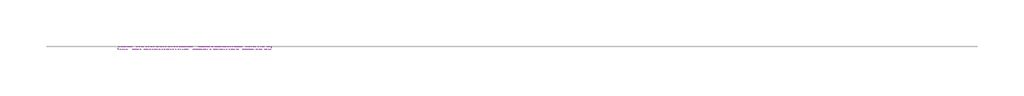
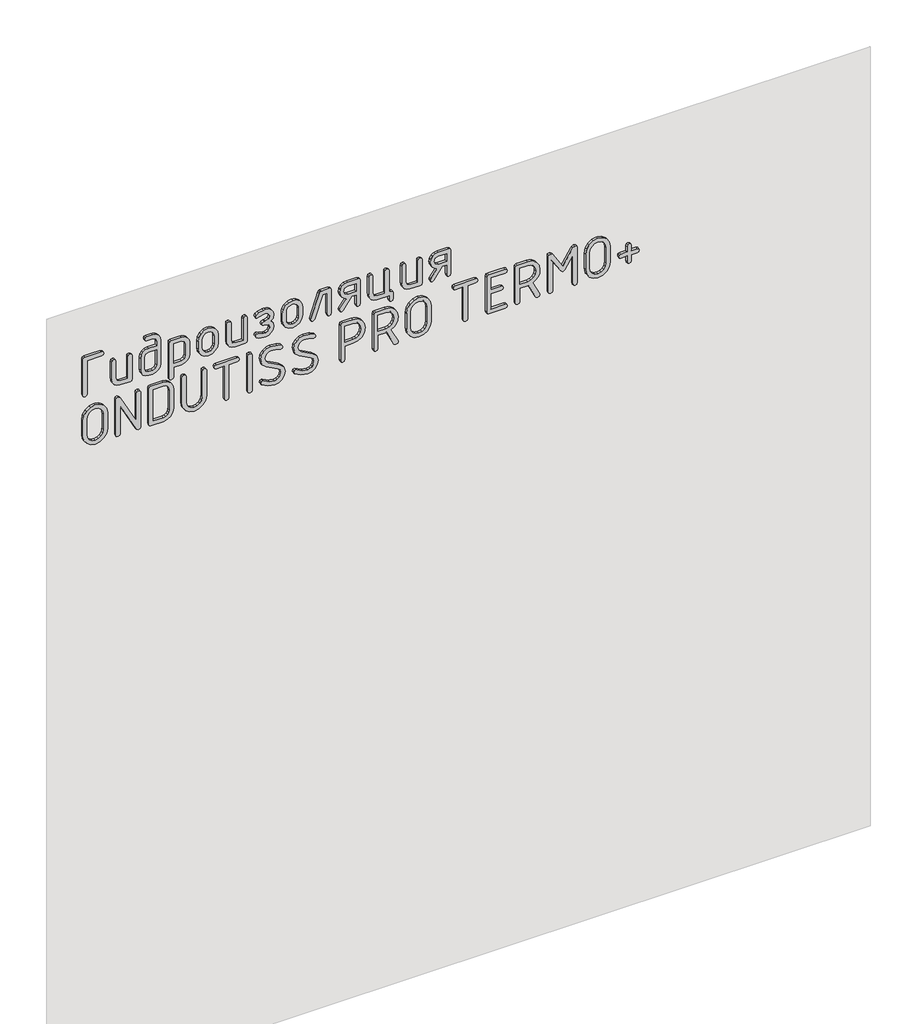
# One storey, part 32 of 42: 1 proxy.
"""IFC4 building model written with IfcOpenShell, lengths in millimetres."""

from ifc_helpers import new_model, si_unit, frame, origin, place, context, project, spatial, polyline, outline, extrude, element, save

model = new_model("IFC4")

# Units and contexts
model_context = context("Model", 3, world=origin())
ifc_project = project(units=[si_unit("LENGTHUNIT", "METRE", prefix="MILLI")], contexts=[model_context])

# Site, building, storey
site = spatial("IfcSite", under=ifc_project)
building = spatial("IfcBuilding", under=site)
storey = spatial("IfcBuildingStorey", under=building, Name="Этаж 01", Elevation=0.0)

# Proxy
placement = place(None, origin())
element("IfcBuildingElementProxy", 1, Name="150 мм GOST Common", ObjectType="150 мм GOST Common", at=placement, inside=storey, context=model_context, shape_type="SweptSolid", body=[
    extrude(outline(polyline([(2798.1927108, -4395.2767702), (2798.1927108, -4342.7803651), (2800.1103877, -4337.1471892), (2805.8634184, -4335.2694639), (2811.6164491, -4337.1471892), (2813.534126, -4342.7803651), (2813.534126, -4402.9474778), (2811.6464128, -4408.7005085), (2805.9832732, -4410.6181854), (2670.2277293, -4410.6181854), (2664.5645897, -4408.7005085), (2662.6768765, -4402.9474778), (2664.5546018, -4397.1944471), (2670.1877777, -4395.2767702), (2798.1927108, -4395.2767702)])), frame((0.0, -27839.3929597, 0.0), z_axis=(0.0, 1.0, 0.0), x_axis=(0.0, 0.0, 1.0)), (0.0, 0.0, 1.0), 10.0),
    extrude(outline(polyline([(2760.0389308, -4231.6350081), (2765.642143, -4233.552685), (2767.5098804, -4239.3057157), (2765.642143, -4245.0587464), (2760.0389308, -4246.9764233), (2678.0182917, -4246.9764233), (2678.0182917, -4275.9413348), (2682.4329437, -4286.168945), (2692.9202393, -4290.4437664), (2760.0389308, -4290.4437664), (2765.642143, -4292.3614433), (2767.5098804, -4298.114474), (2765.642143, -4303.8675047), (2760.0389308, -4305.7851816), (2692.6405781, -4305.7851816), (2681.004674, -4303.637783), (2671.3463742, -4297.1955871), (2664.8442509, -4287.6371663), (2662.6768765, -4276.1410928), (2662.6768765, -4239.0660061), (2664.5446139, -4233.4927576), (2670.1478261, -4231.6350081), (2760.0389308, -4231.6350081)])), frame((0.0, -27839.3929597, 0.0), z_axis=(0.0, 1.0, 0.0), x_axis=(0.0, 0.0, 1.0)), (0.0, 0.0, 1.0), 10.0),
    extrude(outline(polyline([(2783.3706664, -4126.8020043), (2794.9816007, -4128.934421), (2804.7247977, -4135.3316713), (2811.3317939, -4144.8151829), (2813.534126, -4156.2063834), (2813.534126, -4178.2596678), (2811.6164491, -4183.7729888), (2805.8634184, -4185.6107625), (2800.1103877, -4183.8029525), (2798.1927108, -4178.3795226), (2798.1927108, -4156.645851), (2793.7780587, -4146.3183619), (2782.8512956, -4142.1434195), (2767.5098804, -4142.1434195), (2767.5098804, -4171.5477986), (2765.342506, -4182.8890596), (2758.8403827, -4192.3825591), (2749.1820829, -4198.8097731), (2737.5461788, -4200.9521777), (2692.6405781, -4200.9521777), (2681.0795832, -4198.8047791), (2671.4063016, -4192.3625833), (2664.8592328, -4182.8041625), (2662.6768765, -4171.308089), (2662.6768765, -4156.446093), (2664.8642267, -4145.0249288), (2671.4262774, -4135.4515261), (2681.1544925, -4128.9643847), (2692.8403361, -4126.8020043), (2783.3706664, -4126.8020043)]), holes=[polyline([(2692.8403361, -4142.1434195), (2682.3530405, -4146.3782893), (2678.0182917, -4156.645851), (2678.0182917, -4171.108331), (2682.3929921, -4181.3359411), (2692.8403361, -4185.6107625), (2737.3464208, -4185.6107625), (2747.8337163, -4181.3758927), (2752.1684652, -4171.108331), (2752.1684652, -4142.1434195), (2692.8403361, -4142.1434195)])]), frame((0.0, -27839.3929597, 0.0), z_axis=(0.0, 1.0, 0.0), x_axis=(0.0, 0.0, 1.0)), (0.0, 0.0, 1.0), 10.0),
    extrude(outline(polyline([(2759.9590276, -4096.1191739), (2624.2034837, -4096.1191739), (2618.5403441, -4094.201497), (2616.6526309, -4088.4484663), (2618.5703078, -4082.6954356), (2624.3233385, -4080.7777587), (2662.6768765, -4080.7777587), (2662.6768765, -4051.3733796), (2664.8592328, -4039.982179), (2671.4063016, -4030.4986675), (2681.0795832, -4024.1014172), (2692.6405781, -4021.9690004), (2737.5461788, -4021.9690004), (2749.1820829, -4024.116399), (2758.8403827, -4030.5585949), (2765.342506, -4040.1170157), (2767.5098804, -4051.6130892), (2767.5098804, -4088.6881759), (2765.6221672, -4094.2614244), (2759.9590276, -4096.1191739)]), holes=[polyline([(2752.1684652, -4080.7777587), (2752.1684652, -4051.8128472), (2747.8936437, -4041.485358), (2737.3464208, -4037.3104156), (2692.8403361, -4037.3104156), (2682.3530405, -4041.5452854), (2678.0182917, -4051.8128472), (2678.0182917, -4080.7777587), (2752.1684652, -4080.7777587)])]), frame((0.0, -27839.3929597, 0.0), z_axis=(0.0, 1.0, 0.0), x_axis=(0.0, 0.0, 1.0)), (0.0, 0.0, 1.0), 10.0),
    extrude(outline(polyline([(2700.1115277, -3991.28617), (2685.718963, -3988.574455), (2673.6236155, -3980.4393101), (2665.4135613, -3968.4588234), (2662.6768765, -3954.2110833), (2665.4135613, -3939.9633432), (2673.6236155, -3927.9828565), (2685.718963, -3919.8477116), (2700.1115277, -3917.1359966), (2730.0752292, -3917.1359966), (2744.6176124, -3919.8177479), (2756.6829962, -3927.8630017), (2764.8031593, -3939.8135247), (2767.5098804, -3954.2110833), (2764.7731956, -3968.4588234), (2756.5631414, -3980.4393101), (2744.4677939, -3988.574455), (2730.0752292, -3991.28617), (2700.1115277, -3991.28617)]), holes=[polyline([(2700.5509953, -3932.4774118), (2691.8914855, -3934.0704819), (2684.6103061, -3938.8496923), (2679.6662953, -3945.8761803), (2678.0182917, -3954.2110833), (2679.6563074, -3962.6208955), (2684.5703545, -3969.6324017), (2691.841546, -3974.3666666), (2700.5509953, -3975.9447548), (2730.5546484, -3975.9447548), (2739.1841945, -3974.3516847), (2746.4553861, -3969.5724743), (2751.3993968, -3962.5459863), (2753.0474004, -3954.2110833), (2751.3993968, -3945.8761803), (2746.4553861, -3938.8496923), (2739.1841945, -3934.0704819), (2730.5546484, -3932.4774118), (2700.5509953, -3932.4774118)])]), frame((0.0, -27839.3929597, 0.0), z_axis=(0.0, 1.0, 0.0), x_axis=(0.0, 0.0, 1.0)), (0.0, 0.0, 1.0), 10.0),
    extrude(outline(polyline([(2760.0389308, -3812.3029927), (2765.642143, -3814.2206696), (2767.5098804, -3819.9737003), (2765.642143, -3825.726731), (2760.0389308, -3827.6444079), (2678.0182917, -3827.6444079), (2678.0182917, -3856.6093194), (2682.4329437, -3866.8369296), (2692.9202393, -3871.111751), (2760.0389308, -3871.111751), (2765.642143, -3873.0294279), (2767.5098804, -3878.7824586), (2765.642143, -3884.5354893), (2760.0389308, -3886.4531662), (2692.6405781, -3886.4531662), (2681.004674, -3884.3057676), (2671.3463742, -3877.8635717), (2664.8442509, -3868.3051509), (2662.6768765, -3856.8090774), (2662.6768765, -3819.7339907), (2664.5446139, -3814.1607422), (2670.1478261, -3812.3029927), (2760.0389308, -3812.3029927)])), frame((0.0, -27839.3929597, 0.0), z_axis=(0.0, 1.0, 0.0), x_axis=(0.0, 0.0, 1.0)), (0.0, 0.0, 1.0), 10.0),
    extrude(outline(polyline([(2693.3996585, -3730.4821117), (2682.5128469, -3734.8568121), (2678.0182917, -3745.5039141), (2678.0182917, -3753.0148152), (2681.8336697, -3768.0565934), (2685.6490477, -3777.1855345), (2682.9323388, -3781.3005495), (2677.6587273, -3783.0184684), (2671.7059386, -3779.9721587), (2666.6320851, -3770.8332298), (2662.6768765, -3753.0148152), (2662.6768765, -3745.5039141), (2664.8991844, -3733.8180704), (2671.566108, -3724.0099521), (2681.4591234, -3717.3580104), (2693.3597069, -3715.1406965), (2707.1829612, -3717.7874901), (2716.3718297, -3725.727871), (2725.0113637, -3717.7874901), (2738.3052592, -3715.1406965), (2749.6215505, -3717.3580104), (2759.0401407, -3724.0099521), (2765.3924455, -3733.8180704), (2767.5098804, -3745.5039141), (2767.5098804, -3753.0148152), (2763.434817, -3770.713375), (2758.2710724, -3779.942195), (2752.5280296, -3783.0184684), (2747.2743939, -3781.3005495), (2744.5377092, -3777.3053893), (2748.3530872, -3768.396182), (2752.1684652, -3753.0148152), (2752.1684652, -3745.5039141), (2748.1133776, -3734.8168605), (2738.1055012, -3730.4821117), (2728.0976249, -3734.5172235), (2724.0425373, -3746.1830913), (2724.0425373, -3748.5801874), (2724.0425373, -3750.8574287), (2721.7852718, -3758.2684509), (2716.3318781, -3760.4857648), (2710.8984602, -3758.3283783), (2708.7011221, -3753.0148152), (2708.7011221, -3743.3465275), (2704.7459135, -3734.4772719), (2693.3996585, -3730.4821117)])), frame((0.0, -27839.3929597, 0.0), z_axis=(0.0, 1.0, 0.0), x_axis=(0.0, 0.0, 1.0)), (0.0, 0.0, 1.0), 10.0),
    extrude(outline(polyline([(2700.1115277, -3684.4578661), (2685.718963, -3681.7461511), (2673.6236155, -3673.6110061), (2665.4135613, -3661.6305194), (2662.6768765, -3647.3827794), (2665.4135613, -3633.1350393), (2673.6236155, -3621.1545526), (2685.718963, -3613.0194076), (2700.1115277, -3610.3076926), (2730.0752292, -3610.3076926), (2744.6176124, -3612.9894439), (2756.6829962, -3621.0346978), (2764.8031593, -3632.9852208), (2767.5098804, -3647.3827794), (2764.7731956, -3661.6305194), (2756.5631414, -3673.6110061), (2744.4677939, -3681.7461511), (2730.0752292, -3684.4578661), (2700.1115277, -3684.4578661)]), holes=[polyline([(2700.5509953, -3625.6491078), (2691.8914855, -3627.242178), (2684.6103061, -3632.0213884), (2679.6662953, -3639.0478764), (2678.0182917, -3647.3827794), (2679.6563074, -3655.7925916), (2684.5703545, -3662.8040978), (2691.841546, -3667.5383626), (2700.5509953, -3669.1164509), (2730.5546484, -3669.1164509), (2739.1841945, -3667.5233807), (2746.4553861, -3662.7441704), (2751.3993968, -3655.7176823), (2753.0474004, -3647.3827794), (2751.3993968, -3639.0478764), (2746.4553861, -3632.0213884), (2739.1841945, -3627.242178), (2730.5546484, -3625.6491078), (2700.5509953, -3625.6491078)])]), frame((0.0, -27839.3929597, 0.0), z_axis=(0.0, 1.0, 0.0), x_axis=(0.0, 0.0, 1.0)), (0.0, 0.0, 1.0), 10.0),
    extrude(outline(polyline([(2767.5098804, -3543.3088559), (2765.9817316, -3547.9032902), (2761.3972852, -3550.8197571), (2672.5449222, -3580.4638459), (2670.2676809, -3580.8234103), (2664.5745776, -3578.945685), (2662.6768765, -3573.3125091), (2667.75073, -3566.2410755), (2752.1684652, -3537.9553413), (2752.1684652, -3520.816104), (2670.1478261, -3520.816104), (2664.5446139, -3518.8984271), (2662.6768765, -3513.1453964), (2664.5446139, -3507.3923657), (2670.1478261, -3505.4746888), (2760.0389308, -3505.4746888), (2765.642143, -3507.3923657), (2767.5098804, -3513.1453964), (2767.5098804, -3543.3088559)])), frame((0.0, -27839.3929597, 0.0), z_axis=(0.0, 1.0, 0.0), x_axis=(0.0, 0.0, 1.0)), (0.0, 0.0, 1.0), 10.0),
    extrude(outline(polyline([(2707.8221869, -3449.2627847), (2674.7023087, -3474.5121972), (2670.1478261, -3475.9904064), (2664.5446139, -3474.1126811), (2662.6768765, -3468.4795053), (2665.7531499, -3462.4468133), (2707.6623805, -3431.2046605), (2707.6623805, -3415.9831001), (2670.1877777, -3415.9831001), (2664.5546018, -3414.0654232), (2662.6768765, -3408.3123925), (2664.5446139, -3402.5593618), (2670.1478261, -3400.6416849), (2760.0389308, -3400.6416849), (2765.642143, -3402.5593618), (2767.5098804, -3408.3123925), (2767.5098804, -3445.9867533), (2765.342506, -3457.6026816), (2758.8403827, -3467.2809572), (2749.1820829, -3473.8130441), (2737.5461788, -3475.9904064), (2726.784216, -3474.0976993), (2717.5903536, -3468.4195778), (2710.9434058, -3459.8449653), (2707.8221869, -3449.2627847)]), holes=[polyline([(2737.1466628, -3460.9686041), (2747.7937647, -3456.5939036), (2752.1684652, -3445.9867533), (2752.1684652, -3415.9831001), (2722.164812, -3415.9831001), (2722.164812, -3445.9867533), (2726.5994398, -3456.5339762), (2737.1466628, -3460.9686041)])]), frame((0.0, -27839.3929597, 0.0), z_axis=(0.0, 1.0, 0.0), x_axis=(0.0, 0.0, 1.0)), (0.0, 0.0, 1.0), 10.0),
    extrude(outline(polyline([(2678.0182917, -3288.1379735), (2678.0182917, -3295.8086811), (2760.0389308, -3295.8086811), (2765.642143, -3297.726358), (2767.5098804, -3303.4793887), (2765.642143, -3309.2324194), (2760.0389308, -3311.1500963), (2678.0182917, -3311.1500963), (2678.0182917, -3340.1150078), (2682.4329437, -3350.3426179), (2692.9202393, -3354.6174393), (2760.0389308, -3354.6174393), (2765.642143, -3356.5351162), (2767.5098804, -3362.2881469), (2765.642143, -3368.0411776), (2760.0389308, -3369.9588545), (2692.6405781, -3369.9588545), (2681.0795832, -3367.8114559), (2671.4063016, -3361.3692601), (2664.8592328, -3351.8108393), (2662.6768765, -3340.3147658), (2662.6768765, -3295.8086811), (2647.3354613, -3295.8086811), (2641.5824306, -3293.8910042), (2639.6647537, -3288.1379735), (2641.5824306, -3282.3849428), (2647.3354613, -3280.4672659), (2670.3475841, -3280.4672659), (2676.1006148, -3282.3849428), (2678.0182917, -3288.1379735)])), frame((0.0, -27839.3929597, 0.0), z_axis=(0.0, 1.0, 0.0), x_axis=(0.0, 0.0, 1.0)), (0.0, 0.0, 1.0), 10.0),
    extrude(outline(polyline([(2760.0389308, -3175.634262), (2765.642143, -3177.5519389), (2767.5098804, -3183.3049696), (2765.642143, -3189.0580003), (2760.0389308, -3190.9756772), (2678.0182917, -3190.9756772), (2678.0182917, -3219.9405887), (2682.4329437, -3230.1681989), (2692.9202393, -3234.4430203), (2760.0389308, -3234.4430203), (2765.642143, -3236.3606972), (2767.5098804, -3242.1137279), (2765.642143, -3247.8667586), (2760.0389308, -3249.7844355), (2692.6405781, -3249.7844355), (2681.004674, -3247.6370369), (2671.3463742, -3241.194841), (2664.8442509, -3231.6364202), (2662.6768765, -3220.1403467), (2662.6768765, -3183.06526), (2664.5446139, -3177.4920115), (2670.1478261, -3175.634262), (2760.0389308, -3175.634262)])), frame((0.0, -27839.3929597, 0.0), z_axis=(0.0, 1.0, 0.0), x_axis=(0.0, 0.0, 1.0)), (0.0, 0.0, 1.0), 10.0),
    extrude(outline(polyline([(2707.8221869, -3119.4223579), (2674.7023087, -3144.6717704), (2670.1478261, -3146.1499797), (2664.5446139, -3144.2722544), (2662.6768765, -3138.6390785), (2665.7531499, -3132.6063866), (2707.6623805, -3101.3642338), (2707.6623805, -3086.1426734), (2670.1877777, -3086.1426734), (2664.5546018, -3084.2249965), (2662.6768765, -3078.4719658), (2664.5446139, -3072.7189351), (2670.1478261, -3070.8012582), (2760.0389308, -3070.8012582), (2765.642143, -3072.7189351), (2767.5098804, -3078.4719658), (2767.5098804, -3116.1463265), (2765.342506, -3127.7622548), (2758.8403827, -3137.4405304), (2749.1820829, -3143.9726174), (2737.5461788, -3146.1499797), (2726.784216, -3144.2572725), (2717.5903536, -3138.5791511), (2710.9434058, -3130.0045385), (2707.8221869, -3119.4223579)]), holes=[polyline([(2737.1466628, -3131.1281773), (2747.7937647, -3126.7534769), (2752.1684652, -3116.1463265), (2752.1684652, -3086.1426734), (2722.164812, -3086.1426734), (2722.164812, -3116.1463265), (2726.5994398, -3126.6935495), (2737.1466628, -3131.1281773)])]), frame((0.0, -27839.3929597, 0.0), z_axis=(0.0, 1.0, 0.0), x_axis=(0.0, 0.0, 1.0)), (0.0, 0.0, 1.0), 10.0),
    extrude(outline(polyline([(2511.9177961, -4321.1265968), (2572.2447152, -4321.1265968), (2589.6885835, -4324.3876463), (2604.3058759, -4334.1707949), (2614.2088792, -4348.618293), (2617.5098804, -4365.8723911), (2614.1938974, -4383.05158), (2604.2459485, -4397.5140599), (2589.6136742, -4407.3421541), (2572.2447152, -4410.6181854), (2511.9177961, -4410.6181854), (2494.5488371, -4407.3421541), (2479.9165628, -4397.5140599), (2469.9686139, -4383.05158), (2466.6526309, -4365.8723911), (2469.9686139, -4348.6932022), (2479.9165628, -4334.2307223), (2494.5488371, -4324.4026281), (2511.9177961, -4321.1265968)]), holes=[polyline([(2512.0376509, -4336.468012), (2500.3917589, -4338.6004287), (2490.7034954, -4344.997679), (2484.1714084, -4354.4811906), (2481.9940461, -4365.8723911), (2484.1714084, -4377.2635916), (2490.7034954, -4386.7471032), (2500.3917589, -4393.1443535), (2512.0376509, -4395.2767702), (2572.1248604, -4395.2767702), (2583.7707524, -4393.1443535), (2593.4590159, -4386.7471032), (2599.9911029, -4377.2635916), (2602.1684652, -4365.8723911), (2599.9911029, -4354.4811906), (2593.4590159, -4344.997679), (2583.7707524, -4338.6004287), (2572.1248604, -4336.468012), (2512.0376509, -4336.468012)])]), frame((0.0, -27839.3929597, 0.0), z_axis=(0.0, 1.0, 0.0), x_axis=(0.0, 0.0, 1.0)), (0.0, 0.0, 1.0), 10.0),
    extrude(outline(polyline([(2503.3282016, -4216.2935929), (2613.0353009, -4275.1023512), (2617.5098804, -4282.453446), (2615.6221672, -4288.4461863), (2609.9590276, -4290.4437664), (2474.2034837, -4290.4437664), (2468.5403441, -4288.5260895), (2466.6526309, -4282.7730588), (2468.5403441, -4277.0200281), (2474.2034837, -4275.1023512), (2580.9541645, -4275.1023512), (2470.4080815, -4216.2935929), (2466.6526309, -4209.1023046), (2468.5403441, -4202.9897094), (2474.2034837, -4200.9521777), (2609.9590276, -4200.9521777), (2615.6221672, -4202.8698546), (2617.5098804, -4208.6228853), (2615.6221672, -4214.375916), (2609.9590276, -4216.2935929), (2503.3282016, -4216.2935929)])), frame((0.0, -27839.3929597, 0.0), z_axis=(0.0, 1.0, 0.0), x_axis=(0.0, 0.0, 1.0)), (0.0, 0.0, 1.0), 10.0),
    extrude(outline(polyline([(2609.9590276, -4170.2693473), (2474.2034837, -4170.2693473), (2468.5403441, -4168.4016099), (2466.6526309, -4162.7983977), (2466.6526309, -4118.0526034), (2469.4092915, -4103.7299541), (2477.6792731, -4091.684546), (2489.8645117, -4083.5044555), (2504.3669433, -4080.7777587), (2579.795568, -4080.7777587), (2594.4478181, -4083.4744918), (2606.603093, -4091.5646912), (2614.7831835, -4103.5801356), (2617.5098804, -4118.0526034), (2617.5098804, -4162.7983977), (2615.6221672, -4168.4016099), (2609.9590276, -4170.2693473)]), holes=[polyline([(2602.1684652, -4154.9279321), (2602.1684652, -4118.1724582), (2600.5204616, -4109.6977246), (2595.5764508, -4102.5713576), (2588.2952713, -4097.7322198), (2579.6357616, -4096.1191739), (2504.5267497, -4096.1191739), (2495.8672399, -4097.7322198), (2488.5860605, -4102.5713576), (2483.6420497, -4109.6977246), (2481.9940461, -4118.1724582), (2481.9940461, -4154.9279321), (2602.1684652, -4154.9279321)])]), frame((0.0, -27839.3929597, 0.0), z_axis=(0.0, 1.0, 0.0), x_axis=(0.0, 0.0, 1.0)), (0.0, 0.0, 1.0), 10.0),
    extrude(outline(polyline([(2609.9590276, -3960.6033396), (2615.6221672, -3962.5210165), (2617.5098804, -3968.2740472), (2615.6321551, -3974.0270779), (2609.9989792, -3975.9447548), (2512.1175541, -3975.9447548), (2500.4367044, -3978.0771716), (2490.7234712, -3984.4744219), (2484.1764024, -3993.9579334), (2481.9940461, -4005.349134), (2484.1764024, -4016.7403345), (2490.7234712, -4026.223846), (2500.4367044, -4032.6210963), (2512.1175541, -4034.7535131), (2609.9989792, -4034.7535131), (2615.6321551, -4036.67119), (2617.5098804, -4042.4242207), (2615.6221672, -4048.1772514), (2609.9590276, -4050.0949283), (2511.9177961, -4050.0949283), (2494.5488371, -4046.8188969), (2479.9165628, -4036.9908028), (2469.9686139, -4022.5283229), (2466.6526309, -4005.349134), (2469.9686139, -3988.1699451), (2479.9165628, -3973.7074651), (2494.5488371, -3963.879371), (2511.9177961, -3960.6033396), (2609.9590276, -3960.6033396)])), frame((0.0, -27839.3929597, 0.0), z_axis=(0.0, 1.0, 0.0), x_axis=(0.0, 0.0, 1.0)), (0.0, 0.0, 1.0), 10.0),
    extrude(outline(polyline([(2609.8391728, -3931.6384281), (2604.0861421, -3929.7607028), (2602.1684652, -3924.1275269), (2602.1684652, -3894.1238738), (2474.1635321, -3894.1238738), (2468.5303562, -3892.2061969), (2466.6526309, -3886.4531662), (2468.5303562, -3880.7001355), (2474.1635321, -3878.7824586), (2602.1684652, -3878.7824586), (2602.1684652, -3848.7788054), (2604.0861421, -3843.1755932), (2609.8391728, -3841.3078558), (2615.5922035, -3843.1755932), (2617.5098804, -3848.7788054), (2617.5098804, -3924.1275269), (2615.5922035, -3929.7607028), (2609.8391728, -3931.6384281)])), frame((0.0, -27839.3929597, 0.0), z_axis=(0.0, 1.0, 0.0), x_axis=(0.0, 0.0, 1.0)), (0.0, 0.0, 1.0), 10.0),
    extrude(outline(polyline([(2466.6526309, -3802.0753826), (2468.5403441, -3796.3223519), (2474.2034837, -3794.404675), (2609.9590276, -3794.404675), (2615.6221672, -3796.3223519), (2617.5098804, -3802.0753826), (2615.6221672, -3807.8284133), (2609.9590276, -3809.7460902), (2474.2034837, -3809.7460902), (2468.5403441, -3807.8284133), (2466.6526309, -3802.0753826)])), frame((0.0, -27839.3929597, 0.0), z_axis=(0.0, 1.0, 0.0), x_axis=(0.0, 0.0, 1.0)), (0.0, 0.0, 1.0), 10.0),
    extrude(outline(polyline([(2504.2870401, -3674.2302559), (2524.1429863, -3679.3140973), (2537.8463858, -3694.5656214), (2559.5001542, -3736.2351424), (2567.6602689, -3745.3441076), (2579.59581, -3748.3804294), (2588.2603137, -3746.7673835), (2595.556475, -3741.9282457), (2600.5154676, -3734.8018786), (2602.1684652, -3726.3271451), (2600.4904979, -3709.567448), (2595.456596, -3692.6878961), (2594.657564, -3689.5716711), (2596.8748779, -3684.2780839), (2602.1684652, -3682.06077), (2609.1599955, -3686.4953978), (2615.4224092, -3703.4648408), (2617.5098804, -3726.6467579), (2614.7432319, -3740.8195887), (2606.4432866, -3752.8150572), (2594.2680359, -3760.9951478), (2579.8754712, -3763.7218446), (2560.0494887, -3758.6979306), (2546.4359803, -3743.6261888), (2524.7822119, -3701.9167162), (2516.5322061, -3692.6579324), (2504.5667013, -3689.5716711), (2495.9021976, -3691.1996989), (2488.6060363, -3696.0837823), (2483.6470437, -3703.2750707), (2481.9940461, -3711.8247135), (2485.1901743, -3731.6007565), (2495.657494, -3752.0559768), (2497.0158485, -3756.2908466), (2494.7985346, -3761.5245065), (2489.5049473, -3763.7218446), (2483.3923522, -3760.4458132), (2470.8375612, -3737.5235815), (2466.6526309, -3711.5051007), (2469.4192794, -3697.2573606), (2477.7192247, -3685.1969707), (2489.8944754, -3676.9719346), (2504.2870401, -3674.2302559)])), frame((0.0, -27839.3929597, 0.0), z_axis=(0.0, 1.0, 0.0), x_axis=(0.0, 0.0, 1.0)), (0.0, 0.0, 1.0), 10.0),
    extrude(outline(polyline([(2504.2870401, -3554.0558369), (2524.1429863, -3559.1396783), (2537.8463858, -3574.3912024), (2559.5001542, -3616.0607233), (2567.6602689, -3625.1696886), (2579.59581, -3628.2060104), (2588.2603137, -3626.5929644), (2595.556475, -3621.7538266), (2600.5154676, -3614.6274596), (2602.1684652, -3606.152726), (2600.4904979, -3589.3930289), (2595.456596, -3572.5134771), (2594.657564, -3569.3972521), (2596.8748779, -3564.1036648), (2602.1684652, -3561.8863509), (2609.1599955, -3566.3209787), (2615.4224092, -3583.2904217), (2617.5098804, -3606.4723388), (2614.7432319, -3620.6451697), (2606.4432866, -3632.6406382), (2594.2680359, -3640.8207287), (2579.8754712, -3643.5474256), (2560.0494887, -3638.5235116), (2546.4359803, -3623.4517697), (2524.7822119, -3581.7422971), (2516.5322061, -3572.4835134), (2504.5667013, -3569.3972521), (2495.9021976, -3571.0252799), (2488.6060363, -3575.9093632), (2483.6470437, -3583.1006516), (2481.9940461, -3591.6502945), (2485.1901743, -3611.4263375), (2495.657494, -3631.8815577), (2497.0158485, -3636.1164276), (2494.7985346, -3641.3500874), (2489.5049473, -3643.5474256), (2483.3923522, -3640.2713942), (2470.8375612, -3617.3491625), (2466.6526309, -3591.3306816), (2469.4192794, -3577.0829415), (2477.7192247, -3565.0225517), (2489.8944754, -3556.7975156), (2504.2870401, -3554.0558369)])), frame((0.0, -27839.3929597, 0.0), z_axis=(0.0, 1.0, 0.0), x_axis=(0.0, 0.0, 1.0)), (0.0, 0.0, 1.0), 10.0),
    extrude(outline(polyline([(2617.5098804, -3464.7640063), (2615.6221672, -3470.3672185), (2609.9590276, -3472.2349558), (2474.2034837, -3472.2349558), (2468.5403441, -3470.3172789), (2466.6526309, -3464.5642482), (2468.4904046, -3458.8112175), (2474.0037257, -3456.8935407), (2525.4613892, -3456.8935407), (2525.4613892, -3427.2494519), (2528.6575173, -3409.3261644), (2538.2459018, -3395.108388), (2552.9480914, -3385.8346224), (2571.4856348, -3382.7433672), (2589.2241461, -3386.0044167), (2604.0861421, -3395.7875653), (2614.1539458, -3410.2350634), (2617.5098804, -3427.4891615), (2617.5098804, -3464.7640063)]), holes=[polyline([(2602.1684652, -3456.8935407), (2602.1684652, -3427.4891615), (2599.9461573, -3416.097961), (2593.2792337, -3406.6144494), (2583.3862182, -3400.2171992), (2571.4856348, -3398.0847824), (2559.5850513, -3400.2171992), (2549.6920358, -3406.6144494), (2543.0251122, -3416.097961), (2540.8028044, -3427.4891615), (2540.8028044, -3456.8935407), (2602.1684652, -3456.8935407)])]), frame((0.0, -27839.3929597, 0.0), z_axis=(0.0, 1.0, 0.0), x_axis=(0.0, 0.0, 1.0)), (0.0, 0.0, 1.0), 10.0),
    extrude(outline(polyline([(2530.1756782, -3288.7372475), (2536.8800565, -3277.2886165), (2546.1263554, -3269.111023), (2557.9145749, -3264.2044669), (2572.2447152, -3262.5689481), (2589.6885835, -3265.8299977), (2604.3058759, -3275.6131462), (2614.2088792, -3290.0606443), (2617.5098804, -3307.3147425), (2617.5098804, -3344.5895872), (2615.6221672, -3350.1927994), (2609.9590276, -3352.0605368), (2474.2034837, -3352.0605368), (2468.5403441, -3350.1428599), (2466.6526309, -3344.3898292), (2468.4904046, -3338.6367985), (2474.0037257, -3336.7191216), (2525.4613892, -3336.7191216), (2525.4613892, -3307.6343553), (2525.581244, -3304.9975496), (2470.7676459, -3277.9103633), (2466.6526309, -3270.5992202), (2468.9298722, -3265.0059959), (2474.2034837, -3262.5689481), (2477.6393215, -3262.5689481), (2530.1756782, -3288.7372475)]), holes=[polyline([(2602.1684652, -3336.7191216), (2602.1684652, -3307.3147425), (2599.9461573, -3295.9235419), (2593.2792337, -3286.4400304), (2583.3862182, -3280.0427801), (2571.4856348, -3277.9103633), (2559.5850513, -3280.0427801), (2549.6920358, -3286.4400304), (2543.0251122, -3295.9235419), (2540.8028044, -3307.3147425), (2540.8028044, -3336.7191216), (2602.1684652, -3336.7191216)])]), frame((0.0, -27839.3929597, 0.0), z_axis=(0.0, 1.0, 0.0), x_axis=(0.0, 0.0, 1.0)), (0.0, 0.0, 1.0), 10.0),
    extrude(outline(polyline([(2511.9177961, -3142.3945291), (2572.2447152, -3142.3945291), (2589.6885835, -3145.6555786), (2604.3058759, -3155.4387272), (2614.2088792, -3169.8862253), (2617.5098804, -3187.1403234), (2614.1938974, -3204.3195123), (2604.2459485, -3218.7819923), (2589.6136742, -3228.6100864), (2572.2447152, -3231.8861178), (2511.9177961, -3231.8861178), (2494.5488371, -3228.6100864), (2479.9165628, -3218.7819923), (2469.9686139, -3204.3195123), (2466.6526309, -3187.1403234), (2469.9686139, -3169.9611345), (2479.9165628, -3155.4986546), (2494.5488371, -3145.6705605), (2511.9177961, -3142.3945291)]), holes=[polyline([(2512.0376509, -3157.7359443), (2500.3917589, -3159.8683611), (2490.7034954, -3166.2656113), (2484.1714084, -3175.7491229), (2481.9940461, -3187.1403234), (2484.1714084, -3198.531524), (2490.7034954, -3208.0150355), (2500.3917589, -3214.4122858), (2512.0376509, -3216.5447026), (2572.1248604, -3216.5447026), (2583.7707524, -3214.4122858), (2593.4590159, -3208.0150355), (2599.9911029, -3198.531524), (2602.1684652, -3187.1403234), (2599.9911029, -3175.7491229), (2593.4590159, -3166.2656113), (2583.7707524, -3159.8683611), (2572.1248604, -3157.7359443), (2512.0376509, -3157.7359443)])]), frame((0.0, -27839.3929597, 0.0), z_axis=(0.0, 1.0, 0.0), x_axis=(0.0, 0.0, 1.0)), (0.0, 0.0, 1.0), 10.0),
    extrude(outline(polyline([(2609.8391728, -3062.2915669), (2604.0861421, -3060.4138416), (2602.1684652, -3054.7806657), (2602.1684652, -3024.7770126), (2474.1635321, -3024.7770126), (2468.5303562, -3022.8593357), (2466.6526309, -3017.106305), (2468.5303562, -3011.3532743), (2474.1635321, -3009.4355974), (2602.1684652, -3009.4355974), (2602.1684652, -2979.4319442), (2604.0861421, -2973.828732), (2609.8391728, -2971.9609946), (2615.5922035, -2973.828732), (2617.5098804, -2979.4319442), (2617.5098804, -3054.7806657), (2615.5922035, -3060.4138416), (2609.8391728, -3062.2915669)])), frame((0.0, -27839.3929597, 0.0), z_axis=(0.0, 1.0, 0.0), x_axis=(0.0, 0.0, 1.0)), (0.0, 0.0, 1.0), 10.0),
    extrude(outline(polyline([(2474.2034837, -2940.399229), (2468.5403441, -2938.4815521), (2466.6526309, -2932.7285214), (2466.6526309, -2872.5614087), (2468.5703078, -2866.9282328), (2474.3233385, -2865.0505075), (2480.0763692, -2866.9282328), (2481.9940461, -2872.5614087), (2481.9940461, -2925.0578138), (2540.8028044, -2925.0578138), (2540.8028044, -2887.5432595), (2542.7204813, -2881.9400473), (2548.473512, -2880.0723099), (2554.2265427, -2881.9400473), (2556.1442196, -2887.5432595), (2556.1442196, -2925.0578138), (2602.1684652, -2925.0578138), (2602.1684652, -2872.5614087), (2604.0861421, -2866.9282328), (2609.8391728, -2865.0505075), (2615.5922035, -2866.9282328), (2617.5098804, -2872.5614087), (2617.5098804, -2932.7285214), (2615.6221672, -2938.4815521), (2609.9590276, -2940.399229), (2474.2034837, -2940.399229)])), frame((0.0, -27839.3929597, 0.0), z_axis=(0.0, 1.0, 0.0), x_axis=(0.0, 0.0, 1.0)), (0.0, 0.0, 1.0), 10.0),
    extrude(outline(polyline([(2530.1756782, -2772.2429359), (2536.8800565, -2760.7943049), (2546.1263554, -2752.6167113), (2557.9145749, -2747.7101552), (2572.2447152, -2746.0746365), (2589.6885835, -2749.335686), (2604.3058759, -2759.1188346), (2614.2088792, -2773.5663327), (2617.5098804, -2790.8204308), (2617.5098804, -2828.0952756), (2615.6221672, -2833.6984878), (2609.9590276, -2835.5662252), (2474.2034837, -2835.5662252), (2468.5403441, -2833.6485483), (2466.6526309, -2827.8955176), (2468.4904046, -2822.1424869), (2474.0037257, -2820.22481), (2525.4613892, -2820.22481), (2525.4613892, -2791.1400436), (2525.581244, -2788.5032379), (2470.7676459, -2761.4160517), (2466.6526309, -2754.1049085), (2468.9298722, -2748.5116842), (2474.2034837, -2746.0746365), (2477.6393215, -2746.0746365), (2530.1756782, -2772.2429359)]), holes=[polyline([(2602.1684652, -2820.22481), (2602.1684652, -2790.8204308), (2599.9461573, -2779.4292303), (2593.2792337, -2769.9457187), (2583.3862182, -2763.5484685), (2571.4856348, -2761.4160517), (2559.5850513, -2763.5484685), (2549.6920358, -2769.9457187), (2543.0251122, -2779.4292303), (2540.8028044, -2790.8204308), (2540.8028044, -2820.22481), (2602.1684652, -2820.22481)])]), frame((0.0, -27839.3929597, 0.0), z_axis=(0.0, 1.0, 0.0), x_axis=(0.0, 0.0, 1.0)), (0.0, 0.0, 1.0), 10.0),
    extrude(outline(polyline([(2617.5098804, -2618.8687355), (2614.1938974, -2625.9002175), (2555.7846552, -2663.095159), (2613.7544298, -2700.0503909), (2617.5098804, -2707.2416793), (2615.6221672, -2713.3542744), (2609.9590276, -2715.3918061), (2474.2034837, -2715.3918061), (2468.5403441, -2713.4741292), (2466.6526309, -2707.7210985), (2468.5403441, -2701.9680678), (2474.2034837, -2700.0503909), (2585.1490827, -2700.0503909), (2539.3245951, -2669.9268829), (2534.8100641, -2662.9753042), (2539.3245951, -2656.1036286), (2585.1490827, -2625.9002175), (2474.2034837, -2625.9002175), (2468.5403441, -2623.9825406), (2466.6526309, -2618.2295099), (2468.5403441, -2612.4764792), (2474.2034837, -2610.5588023), (2609.9590276, -2610.5588023), (2615.6221672, -2612.6362856), (2617.5098804, -2618.8687355)])), frame((0.0, -27839.3929597, 0.0), z_axis=(0.0, 1.0, 0.0), x_axis=(0.0, 0.0, 1.0)), (0.0, 0.0, 1.0), 10.0),
    extrude(outline(polyline([(2511.9177961, -2490.3843832), (2572.2447152, -2490.3843832), (2589.6885835, -2493.6454327), (2604.3058759, -2503.4285813), (2614.2088792, -2517.8760794), (2617.5098804, -2535.1301775), (2614.1938974, -2552.3093664), (2604.2459485, -2566.7718464), (2589.6136742, -2576.5999405), (2572.2447152, -2579.8759719), (2511.9177961, -2579.8759719), (2494.5488371, -2576.5999405), (2479.9165628, -2566.7718464), (2469.9686139, -2552.3093664), (2466.6526309, -2535.1301775), (2469.9686139, -2517.9509886), (2479.9165628, -2503.4885087), (2494.5488371, -2493.6604146), (2511.9177961, -2490.3843832)]), holes=[polyline([(2512.0376509, -2505.7257984), (2500.3917589, -2507.8582152), (2490.7034954, -2514.2554654), (2484.1714084, -2523.738977), (2481.9940461, -2535.1301775), (2484.1714084, -2546.5213781), (2490.7034954, -2556.0048896), (2500.3917589, -2562.4021399), (2512.0376509, -2564.5345567), (2572.1248604, -2564.5345567), (2583.7707524, -2562.4021399), (2593.4590159, -2556.0048896), (2599.9911029, -2546.5213781), (2602.1684652, -2535.1301775), (2599.9911029, -2523.738977), (2593.4590159, -2514.2554654), (2583.7707524, -2507.8582152), (2572.1248604, -2505.7257984), (2512.0376509, -2505.7257984)])]), frame((0.0, -27839.3929597, 0.0), z_axis=(0.0, 1.0, 0.0), x_axis=(0.0, 0.0, 1.0)), (0.0, 0.0, 1.0), 10.0),
    extrude(outline(polyline([(2512.6768765, -2429.0187224), (2489.6647537, -2429.0187224), (2483.911723, -2427.1010455), (2481.9940461, -2421.3480148), (2483.911723, -2415.5949841), (2489.6647537, -2413.6773072), (2512.6768765, -2413.6773072), (2512.6768765, -2391.1845552), (2514.5945534, -2385.5513794), (2520.3475841, -2383.6736541), (2526.1006148, -2385.5513794), (2528.0182917, -2391.1845552), (2528.0182917, -2413.6773072), (2549.1127376, -2413.6773072), (2554.3863491, -2415.5949841), (2556.1442196, -2421.3480148), (2554.3863491, -2427.1010455), (2549.1127376, -2429.0187224), (2528.0182917, -2429.0187224), (2528.0182917, -2451.5114744), (2526.1006148, -2457.1446503), (2520.3475841, -2459.0223756), (2514.5945534, -2457.1446503), (2512.6768765, -2451.5114744), (2512.6768765, -2429.0187224)])), frame((0.0, -27839.3929597, 0.0), z_axis=(0.0, 1.0, 0.0), x_axis=(0.0, 0.0, 1.0)), (0.0, 0.0, 1.0), 10.0),
])

save(model, "model.ifc")
